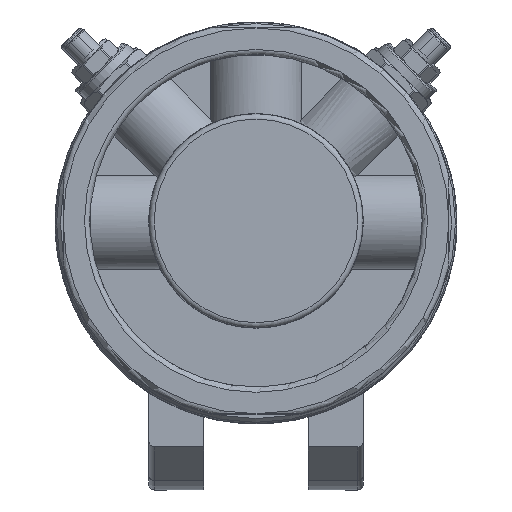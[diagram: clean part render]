
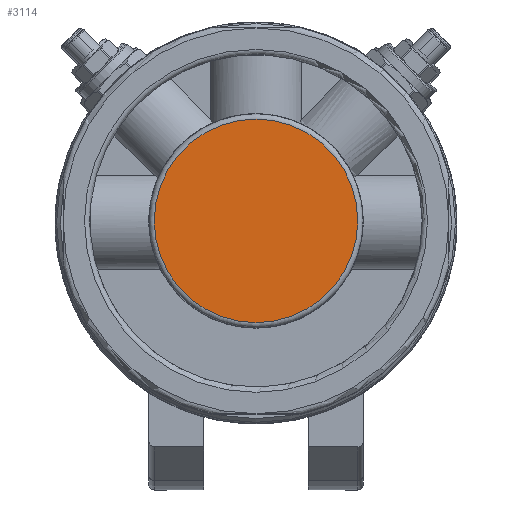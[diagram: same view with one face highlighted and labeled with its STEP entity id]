
A CAD part, top view. The second image highlights one B-rep face of the part: STEP entity #3114.
In plain terms, the highlighted planar face has unit normal (0, 0, 1).
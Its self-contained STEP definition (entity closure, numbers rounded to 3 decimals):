
#2803=CARTESIAN_POINT('',(19.0,0.,245.5));
#2804=VERTEX_POINT('',#2803);
#2805=CARTESIAN_POINT('',(0.,0.,245.5));
#2806=DIRECTION('',(0.0,0.0,-1.0));
#2807=DIRECTION('',(-1.0,0.0,0.0));
#2808=AXIS2_PLACEMENT_3D('',#2805,#2806,#2807);
#2809=CIRCLE('',#2808,19.0);
#2810=EDGE_CURVE('',#2804,#2804,#2809,.T.);
#3106=CARTESIAN_POINT('',(0.,0.,245.5));
#3107=DIRECTION('',(0.0,0.0,-1.0));
#3108=DIRECTION('',(-1.0,0.0,0.0));
#3109=AXIS2_PLACEMENT_3D('',#3106,#3107,#3108);
#3110=PLANE('',#3109);
#3111=ORIENTED_EDGE('',*,*,#2810,.F.);
#3112=EDGE_LOOP('',(#3111));
#3113=FACE_OUTER_BOUND('',#3112,.T.);
#3114=ADVANCED_FACE('',(#3113),#3110,.F.);
